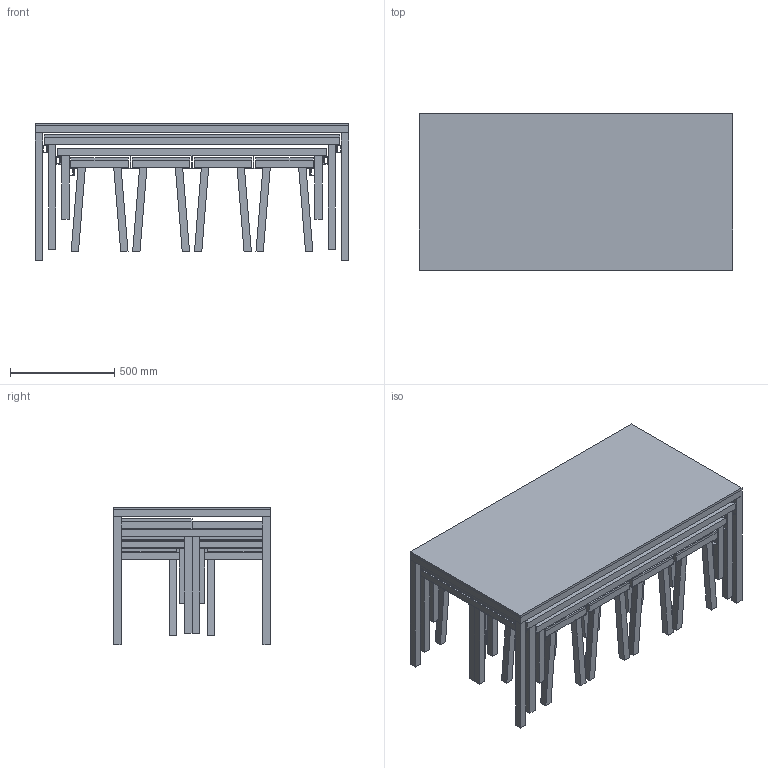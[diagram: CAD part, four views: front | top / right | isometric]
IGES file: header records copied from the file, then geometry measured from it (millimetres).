
Global section: file name: E:\012_VERRIERE-Lille\plans\publication\mobilier-CP-table.igs; native system: Rhinoceros ( Nov 12 2013 ); preprocessor: Trout Lake IGES 012 Nov 12 2013; date: 160915.173500; units: millimetre
Bounding box: 1500 x 750 x 660 mm (x, y, z)
Surface area: 14018194.7 mm2 (no closed solid volume)
Topology: 0 solids, 0 shells, 1116 faces, 5840 edges, 5524 vertices
Faces by surface type: bspline 1116
